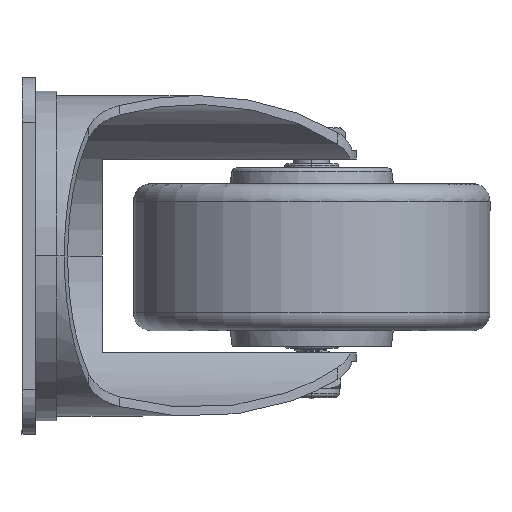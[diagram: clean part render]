
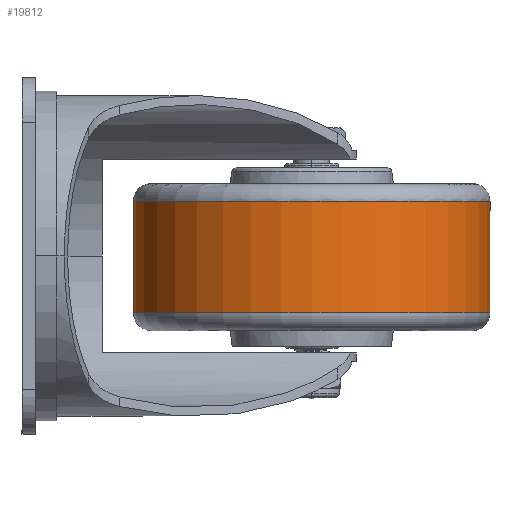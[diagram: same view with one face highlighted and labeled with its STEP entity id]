
A CAD part, left-side view. The second image highlights one B-rep face of the part: STEP entity #19812.
In plain terms, the highlighted cylindrical face has radius 40 mm (diameter 80 mm), a partial arc.
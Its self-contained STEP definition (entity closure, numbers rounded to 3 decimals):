
#456 = VERTEX_POINT ( 'NONE', #23117 ) ;
#960 = FACE_OUTER_BOUND ( 'NONE', #33719, .T. ) ;
#1316 = CARTESIAN_POINT ( 'NONE',  ( 0., 0., 0. ) ) ;
#2439 = CARTESIAN_POINT ( 'NONE',  ( 0., -12.5, -40. ) ) ;
#2857 = CARTESIAN_POINT ( 'NONE',  ( 0., -12.5, 0. ) ) ;
#3861 = CARTESIAN_POINT ( 'NONE',  ( 0., 12.5, 40. ) ) ;
#4224 = ORIENTED_EDGE ( 'NONE', *, *, #19127, .T. ) ;
#6022 = DIRECTION ( 'NONE',  ( 0., 0., -1. ) ) ;
#7879 = CARTESIAN_POINT ( 'NONE',  ( 0., 0., -40. ) ) ;
#8054 = LINE ( 'NONE', #7879, #18953 ) ;
#8541 = CARTESIAN_POINT ( 'NONE',  ( 0., 12.5, 0. ) ) ;
#9753 = EDGE_CURVE ( 'NONE', #9908, #26873, #30574, .T. ) ;
#9908 = VERTEX_POINT ( 'NONE', #3861 ) ;
#10719 = VECTOR ( 'NONE', #11796, 1000. ) ;
#11138 = DIRECTION ( 'NONE',  ( 0., -1., 0. ) ) ;
#11796 = DIRECTION ( 'NONE',  ( 0., -1., 0. ) ) ;
#12264 = DIRECTION ( 'NONE',  ( 0., -1., 0. ) ) ;
#13299 = CIRCLE ( 'NONE', #20641, 40. ) ;
#14460 = CARTESIAN_POINT ( 'NONE',  ( 0., 0., 40. ) ) ;
#14920 = DIRECTION ( 'NONE',  ( 0., 0., -1. ) ) ;
#16020 = DIRECTION ( 'NONE',  ( 0., -1., 0. ) ) ;
#16185 = ORIENTED_EDGE ( 'NONE', *, *, #23304, .T. ) ;
#17556 = CYLINDRICAL_SURFACE ( 'NONE', #34262, 40. ) ;
#18030 = ORIENTED_EDGE ( 'NONE', *, *, #9753, .F. ) ;
#18953 = VECTOR ( 'NONE', #16020, 1000. ) ;
#19127 = EDGE_CURVE ( 'NONE', #9908, #456, #13299, .T. ) ;
#19812 = ADVANCED_FACE ( 'NONE', ( #960 ), #17556, .T. ) ;
#20641 = AXIS2_PLACEMENT_3D ( 'NONE', #8541, #33152, #32616 ) ;
#23057 = CIRCLE ( 'NONE', #30405, 40. ) ;
#23117 = CARTESIAN_POINT ( 'NONE',  ( 0., 12.5, -40. ) ) ;
#23304 = EDGE_CURVE ( 'NONE', #456, #29104, #8054, .T. ) ;
#26355 = CARTESIAN_POINT ( 'NONE',  ( 0., -12.5, 40. ) ) ;
#26597 = EDGE_CURVE ( 'NONE', #26873, #29104, #23057, .T. ) ;
#26873 = VERTEX_POINT ( 'NONE', #26355 ) ;
#29104 = VERTEX_POINT ( 'NONE', #2439 ) ;
#30405 = AXIS2_PLACEMENT_3D ( 'NONE', #2857, #11138, #6022 ) ;
#30574 = LINE ( 'NONE', #14460, #10719 ) ;
#30917 = ORIENTED_EDGE ( 'NONE', *, *, #26597, .F. ) ;
#32616 = DIRECTION ( 'NONE',  ( 0., 0., -1. ) ) ;
#33152 = DIRECTION ( 'NONE',  ( 0., -1., 0. ) ) ;
#33719 = EDGE_LOOP ( 'NONE', ( #18030, #4224, #16185, #30917 ) ) ;
#34262 = AXIS2_PLACEMENT_3D ( 'NONE', #1316, #12264, #14920 ) ;
